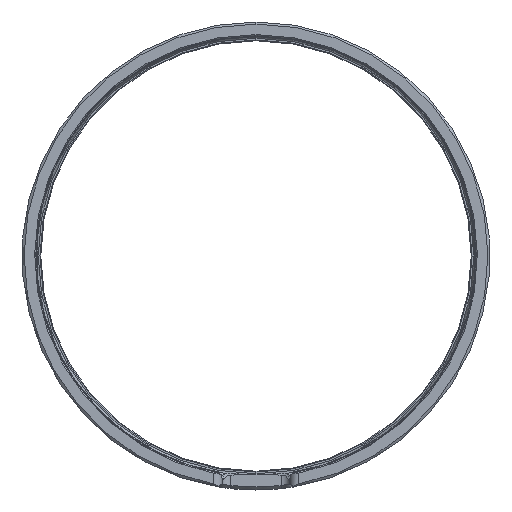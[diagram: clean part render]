
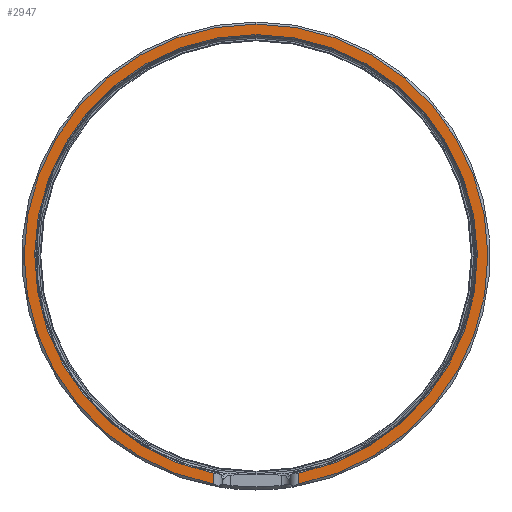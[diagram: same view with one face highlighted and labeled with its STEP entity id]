
A CAD part, left-side view. The second image highlights one B-rep face of the part: STEP entity #2947.
In plain terms, the highlighted planar face has unit normal (-1, 0, 0).
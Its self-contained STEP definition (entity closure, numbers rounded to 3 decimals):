
#251 = AXIS2_PLACEMENT_3D ( 'NONE', #3241, #632, #5082 ) ;
#595 = DIRECTION ( 'NONE',  ( 0., 0., 1. ) ) ;
#632 = DIRECTION ( 'NONE',  ( -1., 0., 0. ) ) ;
#637 = ORIENTED_EDGE ( 'NONE', *, *, #5544, .T. ) ;
#1449 = EDGE_CURVE ( 'NONE', #3324, #5216, #4575, .T. ) ;
#1460 = DIRECTION ( 'NONE',  ( 0., 0., 1. ) ) ;
#1486 = LINE ( 'NONE', #3746, #4261 ) ;
#1596 = CIRCLE ( 'NONE', #3198, 55.5 ) ;
#1681 = ORIENTED_EDGE ( 'NONE', *, *, #1449, .T. ) ;
#1707 = EDGE_CURVE ( 'NONE', #5116, #5216, #3774, .T. ) ;
#1736 = VERTEX_POINT ( 'NONE', #3753 ) ;
#1835 = DIRECTION ( 'NONE',  ( 0., 0., 1. ) ) ;
#2007 = EDGE_CURVE ( 'NONE', #1736, #3324, #1596, .T. ) ;
#2190 = VERTEX_POINT ( 'NONE', #2792 ) ;
#2357 = FACE_OUTER_BOUND ( 'NONE', #4630, .T. ) ;
#2443 = VECTOR ( 'NONE', #1835, 1000. ) ;
#2563 = CARTESIAN_POINT ( 'NONE',  ( -300., 0., 0. ) ) ;
#2792 = CARTESIAN_POINT ( 'NONE',  ( -300., -10.2, -54.555 ) ) ;
#2829 = AXIS2_PLACEMENT_3D ( 'NONE', #4198, #3790, #3213 ) ;
#2947 = ADVANCED_FACE ( 'NONE', ( #2357 ), #5146, .T. ) ;
#3135 = ORIENTED_EDGE ( 'NONE', *, *, #3887, .F. ) ;
#3198 = AXIS2_PLACEMENT_3D ( 'NONE', #2563, #3876, #4777 ) ;
#3213 = DIRECTION ( 'NONE',  ( 0., 0., -1. ) ) ;
#3241 = CARTESIAN_POINT ( 'NONE',  ( -300., 0., 0. ) ) ;
#3266 = CARTESIAN_POINT ( 'NONE',  ( -300., 0., 0. ) ) ;
#3306 = CARTESIAN_POINT ( 'NONE',  ( -300., 10.2, -51.984 ) ) ;
#3324 = VERTEX_POINT ( 'NONE', #3914 ) ;
#3746 = CARTESIAN_POINT ( 'NONE',  ( -300., -10.2, -56. ) ) ;
#3753 = CARTESIAN_POINT ( 'NONE',  ( -300., 0., 55.5 ) ) ;
#3757 = ORIENTED_EDGE ( 'NONE', *, *, #1707, .F. ) ;
#3774 = CIRCLE ( 'NONE', #251, 52.975 ) ;
#3790 = DIRECTION ( 'NONE',  ( -1., 0., 0. ) ) ;
#3876 = DIRECTION ( 'NONE',  ( -1., 0., 0. ) ) ;
#3887 = EDGE_CURVE ( 'NONE', #2190, #5116, #1486, .T. ) ;
#3914 = CARTESIAN_POINT ( 'NONE',  ( -300., 10.2, -54.555 ) ) ;
#4079 = ORIENTED_EDGE ( 'NONE', *, *, #2007, .T. ) ;
#4198 = CARTESIAN_POINT ( 'NONE',  ( -300., 0., 0. ) ) ;
#4229 = CARTESIAN_POINT ( 'NONE',  ( -300., -10.2, -51.984 ) ) ;
#4261 = VECTOR ( 'NONE', #1460, 1000. ) ;
#4575 = LINE ( 'NONE', #4667, #2443 ) ;
#4630 = EDGE_LOOP ( 'NONE', ( #3135, #637, #4079, #1681, #3757 ) ) ;
#4667 = CARTESIAN_POINT ( 'NONE',  ( -300., 10.2, -56. ) ) ;
#4777 = DIRECTION ( 'NONE',  ( 0., 0., 1. ) ) ;
#5082 = DIRECTION ( 'NONE',  ( 0., 0., 1. ) ) ;
#5106 = DIRECTION ( 'NONE',  ( -1., 0., 0. ) ) ;
#5116 = VERTEX_POINT ( 'NONE', #4229 ) ;
#5146 = PLANE ( 'NONE',  #2829 ) ;
#5216 = VERTEX_POINT ( 'NONE', #3306 ) ;
#5235 = CIRCLE ( 'NONE', #5518, 55.5 ) ;
#5518 = AXIS2_PLACEMENT_3D ( 'NONE', #3266, #5106, #595 ) ;
#5544 = EDGE_CURVE ( 'NONE', #2190, #1736, #5235, .T. ) ;
